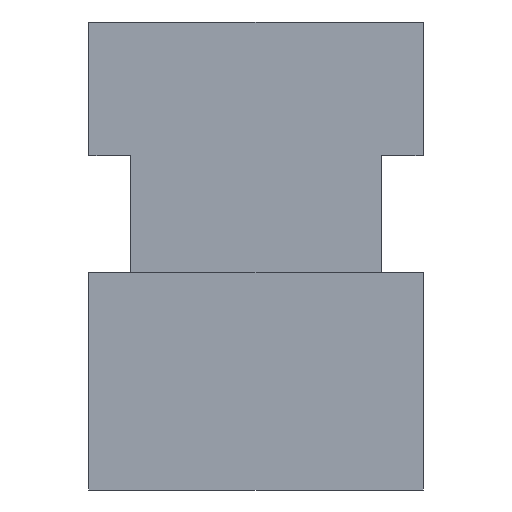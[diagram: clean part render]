
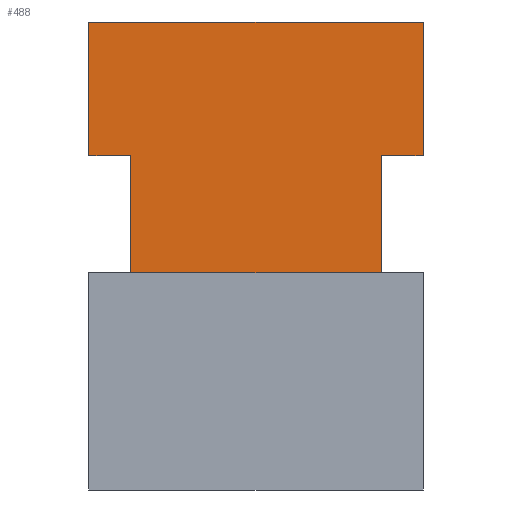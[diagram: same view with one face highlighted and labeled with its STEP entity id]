
A CAD part, front view. The second image highlights one B-rep face of the part: STEP entity #488.
In plain terms, the highlighted planar face has unit normal (0, -1, 0).
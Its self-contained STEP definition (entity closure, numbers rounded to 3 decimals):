
#11 = DIRECTION ( 'NONE',  ( -1., 0., 0. ) ) ;
#27 = CARTESIAN_POINT ( 'NONE',  ( 7.5, 0., -15. ) ) ;
#35 = LINE ( 'NONE', #228, #392 ) ;
#36 = EDGE_CURVE ( 'NONE', #260, #465, #321, .T. ) ;
#37 = DIRECTION ( 'NONE',  ( -1., 0., 0. ) ) ;
#57 = ORIENTED_EDGE ( 'NONE', *, *, #234, .F. ) ;
#65 = VERTEX_POINT ( 'NONE', #27 ) ;
#78 = CARTESIAN_POINT ( 'NONE',  ( 7.5, 0., -8. ) ) ;
#96 = DIRECTION ( 'NONE',  ( 0., 0., -1. ) ) ;
#107 = VERTEX_POINT ( 'NONE', #620 ) ;
#108 = EDGE_CURVE ( 'NONE', #400, #260, #189, .T. ) ;
#110 = DIRECTION ( 'NONE',  ( -1., 0., 0. ) ) ;
#122 = EDGE_LOOP ( 'NONE', ( #274, #419, #351, #451, #299, #57, #587, #355 ) ) ;
#124 = VECTOR ( 'NONE', #37, 1000. ) ;
#125 = AXIS2_PLACEMENT_3D ( 'NONE', #375, #380, #612 ) ;
#135 = VERTEX_POINT ( 'NONE', #478 ) ;
#136 = CARTESIAN_POINT ( 'NONE',  ( -10., 0., -8. ) ) ;
#139 = CARTESIAN_POINT ( 'NONE',  ( 10., 0., -8. ) ) ;
#141 = DIRECTION ( 'NONE',  ( -1., 0., 0. ) ) ;
#142 = CARTESIAN_POINT ( 'NONE',  ( 7.5, 0., -8. ) ) ;
#175 = EDGE_CURVE ( 'NONE', #107, #631, #427, .T. ) ;
#184 = VECTOR ( 'NONE', #110, 1000. ) ;
#188 = CARTESIAN_POINT ( 'NONE',  ( -10., 0., 0. ) ) ;
#189 = LINE ( 'NONE', #139, #124 ) ;
#196 = CARTESIAN_POINT ( 'NONE',  ( 10., 0., -8. ) ) ;
#228 = CARTESIAN_POINT ( 'NONE',  ( 7.5, 0., -15. ) ) ;
#234 = EDGE_CURVE ( 'NONE', #107, #437, #578, .T. ) ;
#239 = CARTESIAN_POINT ( 'NONE',  ( -7.5, 0., -8. ) ) ;
#245 = CARTESIAN_POINT ( 'NONE',  ( -10., 0., -8. ) ) ;
#260 = VERTEX_POINT ( 'NONE', #245 ) ;
#265 = CARTESIAN_POINT ( 'NONE',  ( 10., 0., 0. ) ) ;
#274 = ORIENTED_EDGE ( 'NONE', *, *, #36, .F. ) ;
#275 = VECTOR ( 'NONE', #519, 1000. ) ;
#277 = LINE ( 'NONE', #142, #476 ) ;
#299 = ORIENTED_EDGE ( 'NONE', *, *, #505, .F. ) ;
#314 = VECTOR ( 'NONE', #11, 1000. ) ;
#321 = LINE ( 'NONE', #136, #275 ) ;
#351 = ORIENTED_EDGE ( 'NONE', *, *, #479, .T. ) ;
#355 = ORIENTED_EDGE ( 'NONE', *, *, #415, .T. ) ;
#375 = CARTESIAN_POINT ( 'NONE',  ( 10., 0., -8. ) ) ;
#380 = DIRECTION ( 'NONE',  ( 0., -1., 0. ) ) ;
#392 = VECTOR ( 'NONE', #141, 1000. ) ;
#400 = VERTEX_POINT ( 'NONE', #412 ) ;
#401 = LINE ( 'NONE', #265, #314 ) ;
#412 = CARTESIAN_POINT ( 'NONE',  ( -7.5, 0., -8. ) ) ;
#415 = EDGE_CURVE ( 'NONE', #631, #465, #401, .T. ) ;
#419 = ORIENTED_EDGE ( 'NONE', *, *, #108, .F. ) ;
#420 = LINE ( 'NONE', #239, #576 ) ;
#427 = LINE ( 'NONE', #573, #575 ) ;
#437 = VERTEX_POINT ( 'NONE', #78 ) ;
#451 = ORIENTED_EDGE ( 'NONE', *, *, #459, .F. ) ;
#459 = EDGE_CURVE ( 'NONE', #65, #135, #35, .T. ) ;
#465 = VERTEX_POINT ( 'NONE', #188 ) ;
#469 = DIRECTION ( 'NONE',  ( 0., 0., -1. ) ) ;
#476 = VECTOR ( 'NONE', #469, 1000. ) ;
#478 = CARTESIAN_POINT ( 'NONE',  ( -7.5, 0., -15. ) ) ;
#479 = EDGE_CURVE ( 'NONE', #400, #135, #420, .T. ) ;
#480 = FACE_OUTER_BOUND ( 'NONE', #122, .T. ) ;
#488 = ADVANCED_FACE ( 'NONE', ( #480 ), #622, .T. ) ;
#505 = EDGE_CURVE ( 'NONE', #437, #65, #277, .T. ) ;
#519 = DIRECTION ( 'NONE',  ( 0., 0., 1. ) ) ;
#529 = DIRECTION ( 'NONE',  ( 0., 0., 1. ) ) ;
#573 = CARTESIAN_POINT ( 'NONE',  ( 10., 0., -8. ) ) ;
#575 = VECTOR ( 'NONE', #529, 1000. ) ;
#576 = VECTOR ( 'NONE', #96, 1000. ) ;
#578 = LINE ( 'NONE', #196, #184 ) ;
#587 = ORIENTED_EDGE ( 'NONE', *, *, #175, .T. ) ;
#607 = CARTESIAN_POINT ( 'NONE',  ( 10., 0., 0. ) ) ;
#612 = DIRECTION ( 'NONE',  ( 0., 0., -1. ) ) ;
#620 = CARTESIAN_POINT ( 'NONE',  ( 10., 0., -8. ) ) ;
#622 = PLANE ( 'NONE',  #125 ) ;
#631 = VERTEX_POINT ( 'NONE', #607 ) ;
